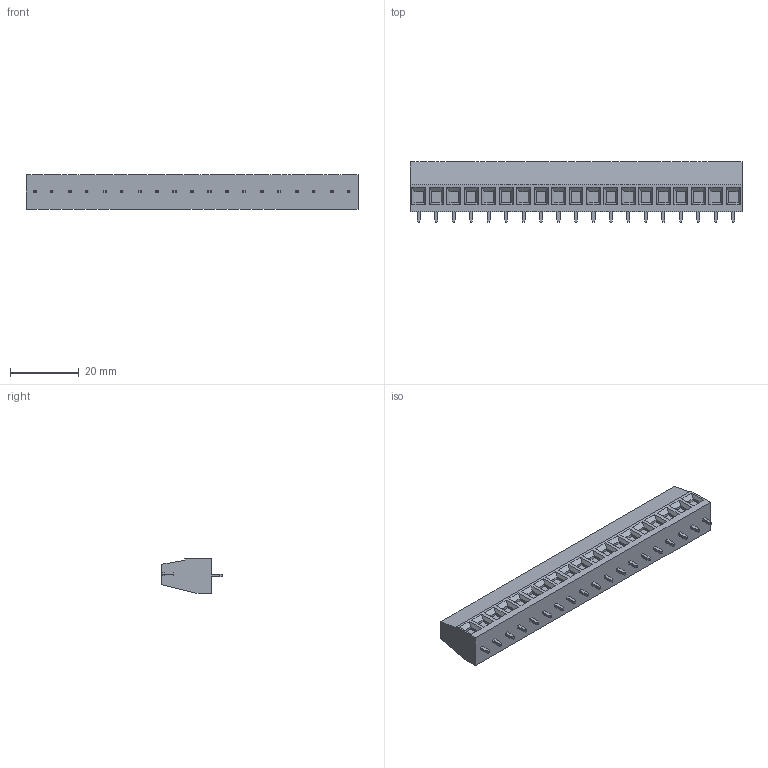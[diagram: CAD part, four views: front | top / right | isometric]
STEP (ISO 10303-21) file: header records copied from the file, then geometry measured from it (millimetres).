
FILE_DESCRIPTION((''),'2;1');
FILE_NAME('395943018','2015-02-24T',('me'),(''),'PRO/ENGINEER BY PARAMETRIC TECHNOLOGY CORPORATION, 2011490','PRO/ENGINEER BY PARAMETRIC TECHNOLOGY CORPORATION, 2011490','');
FILE_SCHEMA(('CONFIG_CONTROL_DESIGN'));
Length unit declared in the file: inch
Products named in the file (1): 395943018
Bounding box: 96.52 x 17.53 x 9.91 mm (x, y, z)
Volume: 10817.1 mm3; surface area: 6915.4 mm2
Topology: 1 solids, 1 shells, 769 faces, 1902 edges, 1230 vertices
Faces by surface type: plane 503, torus 152, cylinder 76, cone 38
Entity records: 22724 total; most frequent: CARTESIAN_POINT 4358, DIRECTION 3860, ORIENTED_EDGE 3690, EDGE_CURVE 1845, AXIS2_PLACEMENT_3D 1340, VECTOR 1180, LINE 1180, VERTEX_POINT 1154
